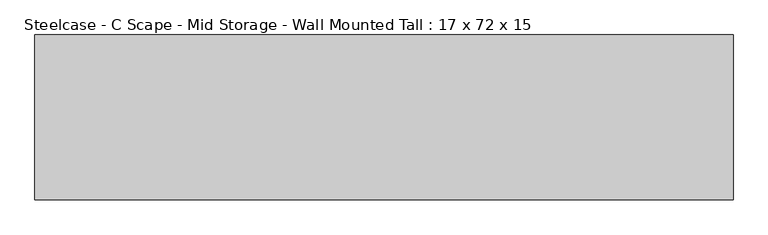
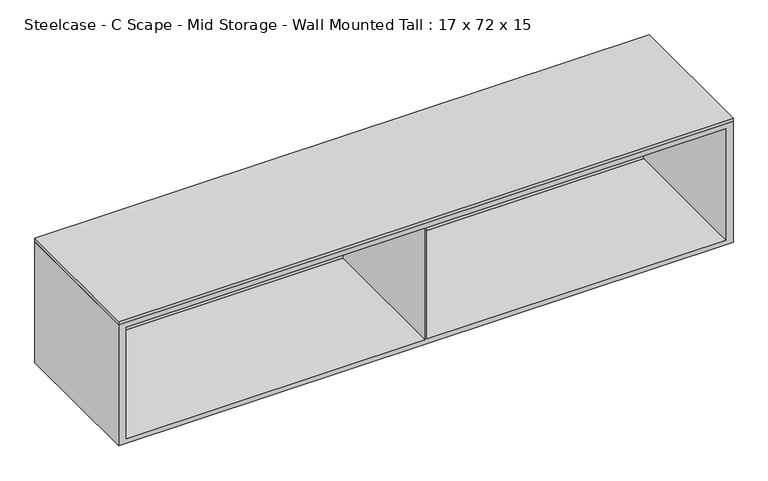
"""IFC4 building model written with IfcOpenShell, lengths in millimetres: furniture geometry, Steelcase - C Scape - Mid Storage - Wall Mounted Tall : 17 x 72 x 15."""

from ifc_helpers import new_model, si_unit, frame, origin, place, context, project, spatial, polyline, outline, extrude, faceted_brep, source, transform, mapped, element, save


def steelcase_c_scape_mid_storage_wall_mounted_tall_17_x_72_x_15_bbf19f24(model_context):
    return source(origin(), model_context, "Body", "SolidModel", [
        extrude(outline(polyline([(1828.8, 215.9), (1828.8, -215.9), (0.0, -215.9), (0.0, 215.9), (1828.8, 215.9)])), frame((0.0, 0.0, 1219.2), z_axis=(0.0, 0.0, 1.0), x_axis=(1.0, 0.0, 0.0)), (0.0, 0.0, 1.0), 10.16),
        faceted_brep([(0.0, -215.9, 1219.2), (0.0, -215.9, 838.2), (1828.8, -215.9, 838.2), (1828.8, -215.9, 1219.2), (21.9711633, -215.9, 1203.96), (911.225, -215.9, 1203.96), (911.225, -215.9, 853.4399855), (21.9711633, -215.9, 853.4399855), (1806.702, -215.9, 1203.96), (1806.702, -215.9, 853.4399855), (917.575, -215.9, 853.4399855), (917.575, -215.9, 1203.96), (1828.8, 215.9, 1219.2), (1828.8, 215.9, 838.2), (0.0, 215.9, 838.2), (0.0, 215.9, 1219.2), (1806.702, 206.3755809, 1203.96), (1806.702, 206.3755809, 853.4399855), (911.225, 206.3755809, 853.4399855), (21.9711633, 206.3755809, 853.4399855), (917.575, 206.3755809, 853.4399855), (21.9711633, 206.3755809, 1203.96), (911.225, 206.3755809, 1203.96), (917.575, 206.3755809, 1203.96)], [[[0, 1, 2, 3], [4, 5, 6, 7], [8, 9, 10, 11]], [[12, 13, 14, 15]], [[0, 3, 12, 15]], [[1, 0, 15, 14]], [[2, 1, 14, 13]], [[3, 2, 13, 12]], [[9, 8, 16, 17]], [[7, 6, 18, 19]], [[10, 9, 17, 20]], [[4, 7, 19, 21]], [[5, 4, 21, 22]], [[8, 11, 23, 16]], [[18, 22, 21, 19]], [[6, 5, 22, 18]], [[11, 10, 20, 23]], [[23, 20, 17, 16]]]),
    ])


if __name__ == "__main__":
    model = new_model("IFC4")
    model_context = context("Model", 3, world=origin())
    ifc_project = project(units=[si_unit("LENGTHUNIT", "METRE", prefix="MILLI")], contexts=[model_context])
    site = spatial("IfcSite", under=ifc_project)
    building = spatial("IfcBuilding", under=site)
    placement = place(None, origin())
    steelcase_c_scape_mid_storage_wall_mounted_tall_17_x_72_x_15_shape = steelcase_c_scape_mid_storage_wall_mounted_tall_17_x_72_x_15_bbf19f24(model_context)
    element("IfcFurniture", 1, ObjectType="Steelcase - C Scape - Mid Storage - Wall Mounted Tall : 17 x 72 x 15", at=placement, inside=building, context=model_context, shape_type="MappedRepresentation", body=[
        mapped(steelcase_c_scape_mid_storage_wall_mounted_tall_17_x_72_x_15_shape, transform((0.0, 0.0, 0.0), x_axis=(1.0, 0.0, 0.0), y_axis=(0.0, 1.0, 0.0), z_axis=(0.0, 0.0, 1.0))),
    ])
    save(model, "model.ifc")
